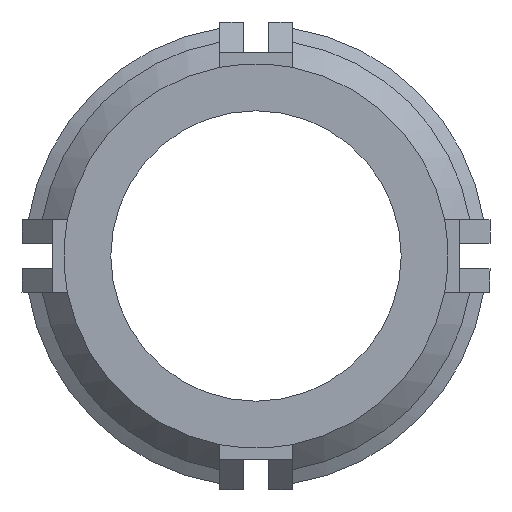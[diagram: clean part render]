
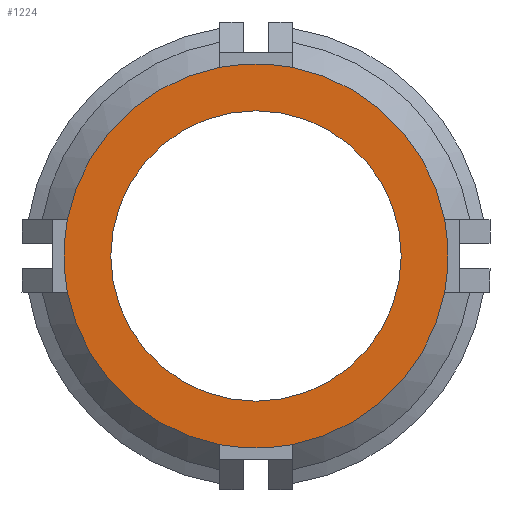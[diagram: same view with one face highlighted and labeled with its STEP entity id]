
A CAD part, front view. The second image highlights one B-rep face of the part: STEP entity #1224.
In plain terms, the highlighted planar face has unit normal (0, -1, 0).
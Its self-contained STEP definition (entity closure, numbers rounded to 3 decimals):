
#119 = CIRCLE ( 'NONE', #759, 8. ) ;
#137 = AXIS2_PLACEMENT_3D ( 'NONE', #2936, #4284, #2995 ) ;
#146 = DIRECTION ( 'NONE',  ( 0., -1., 0. ) ) ;
#195 = CARTESIAN_POINT ( 'NONE',  ( 2., -22.098, -10.392 ) ) ;
#246 = CARTESIAN_POINT ( 'NONE',  ( 0., -22.098, 0. ) ) ;
#335 = FACE_BOUND ( 'NONE', #1354, .T. ) ;
#518 = DIRECTION ( 'NONE',  ( 0., 0., 1. ) ) ;
#584 = AXIS2_PLACEMENT_3D ( 'NONE', #3028, #3940, #5577 ) ;
#601 = DIRECTION ( 'NONE',  ( 0., 0., 1. ) ) ;
#703 = DIRECTION ( 'NONE',  ( 0., -1., 0. ) ) ;
#759 = AXIS2_PLACEMENT_3D ( 'NONE', #4925, #5402, #1078 ) ;
#857 = DIRECTION ( 'NONE',  ( 0., 0., -1. ) ) ;
#883 = VERTEX_POINT ( 'NONE', #1276 ) ;
#1036 = DIRECTION ( 'NONE',  ( 1., 0., 0. ) ) ;
#1078 = DIRECTION ( 'NONE',  ( 0., 0., 1. ) ) ;
#1224 = ADVANCED_FACE ( 'NONE', ( #335, #5548 ), #1533, .F. ) ;
#1276 = CARTESIAN_POINT ( 'NONE',  ( -2., -22.098, -10.392 ) ) ;
#1324 = CARTESIAN_POINT ( 'NONE',  ( 0., -22.098, 8. ) ) ;
#1334 = EDGE_CURVE ( 'NONE', #1418, #3353, #119, .T. ) ;
#1354 = EDGE_LOOP ( 'NONE', ( #4803, #1586 ) ) ;
#1394 = EDGE_CURVE ( 'NONE', #883, #2022, #5154, .T. ) ;
#1418 = VERTEX_POINT ( 'NONE', #4897 ) ;
#1474 = ORIENTED_EDGE ( 'NONE', *, *, #5016, .T. ) ;
#1533 = PLANE ( 'NONE',  #4048 ) ;
#1586 = ORIENTED_EDGE ( 'NONE', *, *, #1334, .F. ) ;
#1621 = DIRECTION ( 'NONE',  ( 0., 1., 0. ) ) ;
#1643 = CARTESIAN_POINT ( 'NONE',  ( 2., -22.098, 10.392 ) ) ;
#1721 = EDGE_CURVE ( 'NONE', #3237, #2658, #3597, .T. ) ;
#1825 = CARTESIAN_POINT ( 'NONE',  ( 0., -22.098, 0. ) ) ;
#1944 = CARTESIAN_POINT ( 'NONE',  ( 0., -22.098, 0. ) ) ;
#1957 = AXIS2_PLACEMENT_3D ( 'NONE', #3602, #4941, #3114 ) ;
#1969 = AXIS2_PLACEMENT_3D ( 'NONE', #1825, #2726, #601 ) ;
#2022 = VERTEX_POINT ( 'NONE', #195 ) ;
#2042 = AXIS2_PLACEMENT_3D ( 'NONE', #4628, #703, #3256 ) ;
#2149 = EDGE_CURVE ( 'NONE', #2658, #3236, #4876, .T. ) ;
#2151 = CIRCLE ( 'NONE', #137, 10.583 ) ;
#2164 = VERTEX_POINT ( 'NONE', #3061 ) ;
#2273 = EDGE_CURVE ( 'NONE', #4462, #2164, #4428, .T. ) ;
#2337 = AXIS2_PLACEMENT_3D ( 'NONE', #4651, #4220, #1036 ) ;
#2431 = AXIS2_PLACEMENT_3D ( 'NONE', #3102, #4013, #518 ) ;
#2467 = ORIENTED_EDGE ( 'NONE', *, *, #5662, .T. ) ;
#2596 = AXIS2_PLACEMENT_3D ( 'NONE', #3901, #3492, #857 ) ;
#2658 = VERTEX_POINT ( 'NONE', #3561 ) ;
#2726 = DIRECTION ( 'NONE',  ( 0., -1., 0. ) ) ;
#2822 = EDGE_CURVE ( 'NONE', #2022, #3237, #4067, .T. ) ;
#2936 = CARTESIAN_POINT ( 'NONE',  ( 0., -22.098, 0. ) ) ;
#2941 = DIRECTION ( 'NONE',  ( 0., 0., 1. ) ) ;
#2995 = DIRECTION ( 'NONE',  ( 0., 0., 1. ) ) ;
#3002 = ORIENTED_EDGE ( 'NONE', *, *, #1394, .T. ) ;
#3028 = CARTESIAN_POINT ( 'NONE',  ( 0., -22.098, 0. ) ) ;
#3061 = CARTESIAN_POINT ( 'NONE',  ( -10.392, -22.098, 2. ) ) ;
#3065 = CIRCLE ( 'NONE', #2337, 10.583 ) ;
#3102 = CARTESIAN_POINT ( 'NONE',  ( 0., -22.098, 0. ) ) ;
#3114 = DIRECTION ( 'NONE',  ( 0., 0., 1. ) ) ;
#3128 = CARTESIAN_POINT ( 'NONE',  ( 10.392, -22.098, -2. ) ) ;
#3236 = VERTEX_POINT ( 'NONE', #1643 ) ;
#3237 = VERTEX_POINT ( 'NONE', #3128 ) ;
#3256 = DIRECTION ( 'NONE',  ( 0., 0., 1. ) ) ;
#3353 = VERTEX_POINT ( 'NONE', #1324 ) ;
#3492 = DIRECTION ( 'NONE',  ( 0., -1., 0. ) ) ;
#3561 = CARTESIAN_POINT ( 'NONE',  ( 10.392, -22.098, 2. ) ) ;
#3597 = CIRCLE ( 'NONE', #2596, 10.583 ) ;
#3602 = CARTESIAN_POINT ( 'NONE',  ( 0., -22.098, 0. ) ) ;
#3767 = ORIENTED_EDGE ( 'NONE', *, *, #2149, .T. ) ;
#3901 = CARTESIAN_POINT ( 'NONE',  ( 0., -22.098, 0. ) ) ;
#3940 = DIRECTION ( 'NONE',  ( 0., -1., 0. ) ) ;
#4013 = DIRECTION ( 'NONE',  ( 0., -1., 0. ) ) ;
#4048 = AXIS2_PLACEMENT_3D ( 'NONE', #246, #1621, #2941 ) ;
#4067 = CIRCLE ( 'NONE', #2042, 10.583 ) ;
#4220 = DIRECTION ( 'NONE',  ( 0., -1., 0. ) ) ;
#4279 = CARTESIAN_POINT ( 'NONE',  ( -10.392, -22.098, -2. ) ) ;
#4284 = DIRECTION ( 'NONE',  ( 0., -1., 0. ) ) ;
#4295 = ORIENTED_EDGE ( 'NONE', *, *, #2822, .T. ) ;
#4395 = ORIENTED_EDGE ( 'NONE', *, *, #1721, .T. ) ;
#4428 = CIRCLE ( 'NONE', #1957, 10.583 ) ;
#4440 = CIRCLE ( 'NONE', #1969, 10.583 ) ;
#4452 = CARTESIAN_POINT ( 'NONE',  ( -2., -22.098, 10.392 ) ) ;
#4462 = VERTEX_POINT ( 'NONE', #4452 ) ;
#4463 = EDGE_LOOP ( 'NONE', ( #2467, #1474, #3002, #4295, #4395, #3767, #4752, #4542 ) ) ;
#4467 = DIRECTION ( 'NONE',  ( -1., 0., 0. ) ) ;
#4542 = ORIENTED_EDGE ( 'NONE', *, *, #2273, .T. ) ;
#4597 = EDGE_CURVE ( 'NONE', #3236, #4462, #3065, .T. ) ;
#4628 = CARTESIAN_POINT ( 'NONE',  ( 0., -22.098, 0. ) ) ;
#4651 = CARTESIAN_POINT ( 'NONE',  ( 0., -22.098, 0. ) ) ;
#4752 = ORIENTED_EDGE ( 'NONE', *, *, #4597, .T. ) ;
#4781 = AXIS2_PLACEMENT_3D ( 'NONE', #1944, #146, #4467 ) ;
#4803 = ORIENTED_EDGE ( 'NONE', *, *, #4910, .F. ) ;
#4821 = VERTEX_POINT ( 'NONE', #4279 ) ;
#4876 = CIRCLE ( 'NONE', #584, 10.583 ) ;
#4897 = CARTESIAN_POINT ( 'NONE',  ( 0., -22.098, -8. ) ) ;
#4910 = EDGE_CURVE ( 'NONE', #3353, #1418, #5167, .T. ) ;
#4925 = CARTESIAN_POINT ( 'NONE',  ( 0., -22.098, 0. ) ) ;
#4941 = DIRECTION ( 'NONE',  ( 0., -1., 0. ) ) ;
#5016 = EDGE_CURVE ( 'NONE', #4821, #883, #2151, .T. ) ;
#5154 = CIRCLE ( 'NONE', #4781, 10.583 ) ;
#5167 = CIRCLE ( 'NONE', #2431, 8. ) ;
#5402 = DIRECTION ( 'NONE',  ( 0., -1., 0. ) ) ;
#5548 = FACE_OUTER_BOUND ( 'NONE', #4463, .T. ) ;
#5577 = DIRECTION ( 'NONE',  ( 0., 0., 1. ) ) ;
#5662 = EDGE_CURVE ( 'NONE', #2164, #4821, #4440, .T. ) ;
